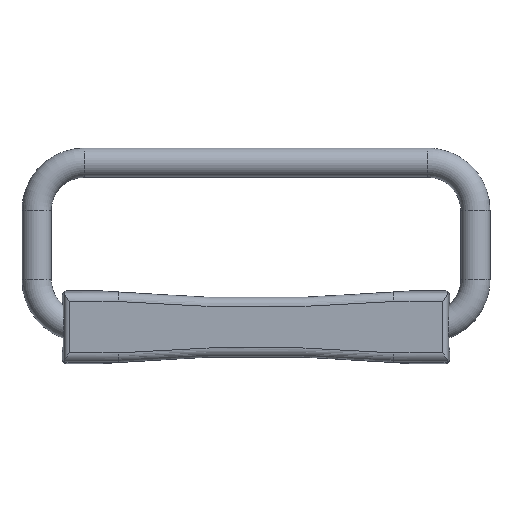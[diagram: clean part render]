
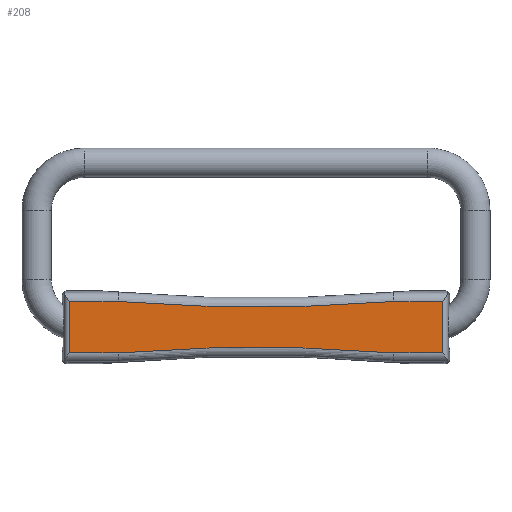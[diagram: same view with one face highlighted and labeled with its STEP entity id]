
A CAD part, top view. The second image highlights one B-rep face of the part: STEP entity #208.
In plain terms, the highlighted planar face has unit normal (0, 0, 1).
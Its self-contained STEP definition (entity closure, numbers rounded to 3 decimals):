
#208 = ADVANCED_FACE( '', ( #300 ), #301, .T. );
#300 = FACE_OUTER_BOUND( '', #412, .T. );
#301 = PLANE( '', #413 );
#412 = EDGE_LOOP( '', ( #782, #783, #784, #785, #786, #787, #788, #789 ) );
#413 = AXIS2_PLACEMENT_3D( '', #790, #791, #792 );
#782 = ORIENTED_EDGE( '', *, *, #948, .F. );
#783 = ORIENTED_EDGE( '', *, *, #952, .T. );
#784 = ORIENTED_EDGE( '', *, *, #951, .T. );
#785 = ORIENTED_EDGE( '', *, *, #861, .F. );
#786 = ORIENTED_EDGE( '', *, *, #945, .T. );
#787 = ORIENTED_EDGE( '', *, *, #953, .F. );
#788 = ORIENTED_EDGE( '', *, *, #850, .F. );
#789 = ORIENTED_EDGE( '', *, *, #854, .F. );
#790 = CARTESIAN_POINT( '', ( -51.5, -1.5, 16. ) );
#791 = DIRECTION( '', ( 0., 0., 1. ) );
#792 = DIRECTION( '', ( 1., 0., 0. ) );
#850 = EDGE_CURVE( '', #977, #971, #979, .T. );
#854 = EDGE_CURVE( '', #985, #977, #987, .T. );
#861 = EDGE_CURVE( '', #998, #990, #1000, .T. );
#945 = EDGE_CURVE( '', #998, #1139, #1141, .T. );
#948 = EDGE_CURVE( '', #1143, #985, #1145, .T. );
#951 = EDGE_CURVE( '', #1146, #990, #1149, .T. );
#952 = EDGE_CURVE( '', #1143, #1146, #1150, .T. );
#953 = EDGE_CURVE( '', #971, #1139, #1151, .T. );
#971 = VERTEX_POINT( '', #1181 );
#977 = VERTEX_POINT( '', #1199 );
#979 = LINE( '', #1216, #1217 );
#985 = VERTEX_POINT( '', #1226 );
#987 = CIRCLE( '', #1243, 465.75 );
#990 = VERTEX_POINT( '', #1249 );
#998 = VERTEX_POINT( '', #1278 );
#1000 = CIRCLE( '', #1295, 465.75 );
#1139 = VERTEX_POINT( '', #1632 );
#1141 = LINE( '', #1645, #1646 );
#1143 = VERTEX_POINT( '', #1649 );
#1145 = LINE( '', #1662, #1663 );
#1146 = VERTEX_POINT( '', #1664 );
#1149 = LINE( '', #1679, #1680 );
#1150 = LINE( '', #1681, #1682 );
#1151 = LINE( '', #1683, #1684 );
#1181 = CARTESIAN_POINT( '', ( -50.993, -17.027, 16. ) );
#1199 = CARTESIAN_POINT( '', ( -37.684, -17.027, 16. ) );
#1216 = CARTESIAN_POINT( '', ( 62.5, -17.027, 16. ) );
#1217 = VECTOR( '', #1738, 1000. );
#1226 = CARTESIAN_POINT( '', ( 37.684, -17.027, 16. ) );
#1243 = AXIS2_PLACEMENT_3D( '', #1742, #1743, #1744 );
#1249 = CARTESIAN_POINT( '', ( 37.684, -2.973, 16. ) );
#1278 = CARTESIAN_POINT( '', ( -37.684, -2.973, 16. ) );
#1295 = AXIS2_PLACEMENT_3D( '', #1748, #1749, #1750 );
#1632 = CARTESIAN_POINT( '', ( -50.993, -2.973, 16. ) );
#1645 = CARTESIAN_POINT( '', ( 62.5, -2.973, 16. ) );
#1646 = VECTOR( '', #1873, 1000. );
#1649 = CARTESIAN_POINT( '', ( 50.993, -17.027, 16. ) );
#1662 = CARTESIAN_POINT( '', ( 62.5, -17.027, 16. ) );
#1663 = VECTOR( '', #1875, 1000. );
#1664 = CARTESIAN_POINT( '', ( 50.993, -2.973, 16. ) );
#1679 = CARTESIAN_POINT( '', ( 62.5, -2.973, 16. ) );
#1680 = VECTOR( '', #1877, 1000. );
#1681 = CARTESIAN_POINT( '', ( 50.993, -20., 16. ) );
#1682 = VECTOR( '', #1878, 1000. );
#1683 = CARTESIAN_POINT( '', ( -50.993, -20., 16. ) );
#1684 = VECTOR( '', #1879, 1000. );
#1738 = DIRECTION( '', ( -1., 0., 0. ) );
#1742 = CARTESIAN_POINT( '', ( 0., -481.25, 16. ) );
#1743 = DIRECTION( '', ( 0., 0., 1. ) );
#1744 = DIRECTION( '', ( 1., 0., 0. ) );
#1748 = CARTESIAN_POINT( '', ( 0., 461.25, 16. ) );
#1749 = DIRECTION( '', ( 0., 0., 1. ) );
#1750 = DIRECTION( '', ( 1., 0., 0. ) );
#1873 = DIRECTION( '', ( -1., 0., 0. ) );
#1875 = DIRECTION( '', ( -1., 0., 0. ) );
#1877 = DIRECTION( '', ( -1., 0., 0. ) );
#1878 = DIRECTION( '', ( 0., 1., 0. ) );
#1879 = DIRECTION( '', ( 0., 1., 0. ) );
